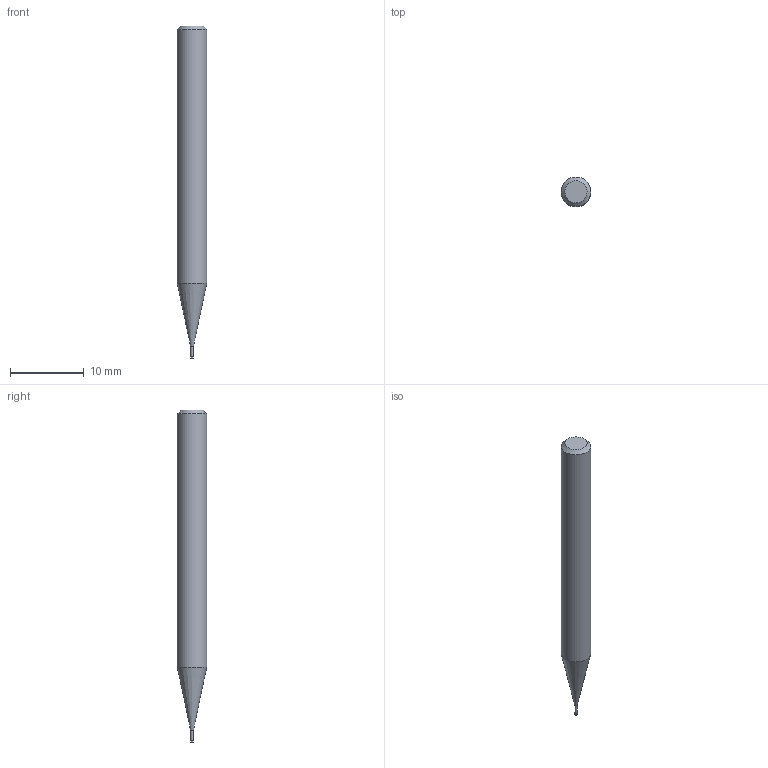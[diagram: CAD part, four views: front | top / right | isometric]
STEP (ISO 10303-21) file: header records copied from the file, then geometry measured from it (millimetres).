
FILE_DESCRIPTION((''),'2;1');
FILE_NAME('C:\Users\nsx150\AppData\Local\Temp\Mastercam 2021\CC00YWH0Y5\TEMP.step','2021-04-08T15:19:34',(''),(''),'STEP Write','Mastercam 2021 ... CNC Software, Inc.','');
FILE_SCHEMA(('AUTOMOTIVE_DESIGN'));
Length unit declared in the file: millimetre
Products named in the file (1): None
Bounding box: 4 x 4 x 45 mm (x, y, z)
Volume: 476.5 mm3; surface area: 509.1 mm2
Topology: 2 solids, 2 shells, 9 faces, 12 edges, 7 vertices
Faces by surface type: plane 4, cylinder 3, cone 2
Full cylindrical faces by diameter (mm): 0.38 x1, 0.4 x1, 4 x1
Entity records: 211 total; most frequent: DIRECTION 36, CARTESIAN_POINT 25, AXIS2_PLACEMENT_3D 18, ORIENTED_EDGE 14, EDGE_LOOP 14, STYLED_ITEM 12, ADVANCED_FACE 9, FACE_BOUND 8
